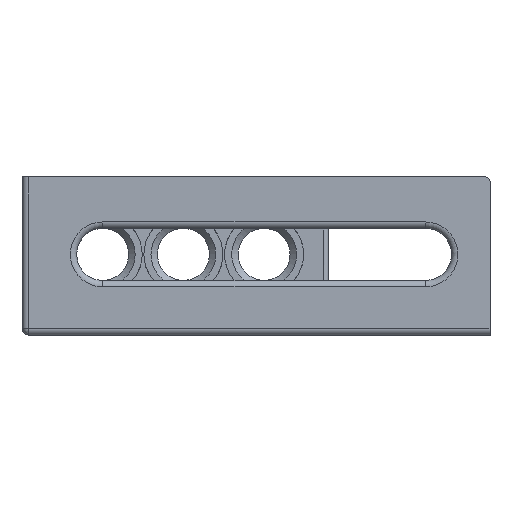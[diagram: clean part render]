
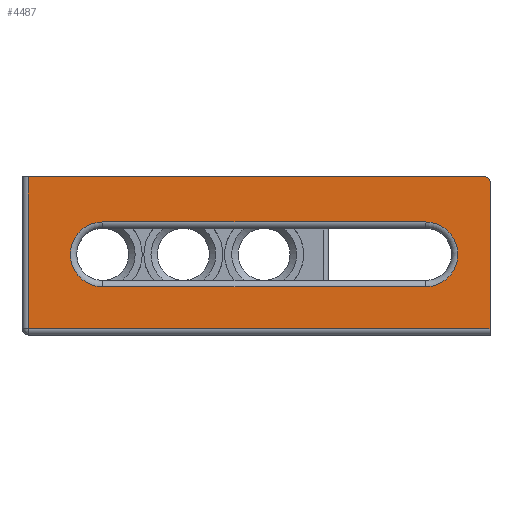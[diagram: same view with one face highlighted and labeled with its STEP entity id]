
A CAD part, front view. The second image highlights one B-rep face of the part: STEP entity #4487.
In plain terms, the highlighted planar face has unit normal (0, -1, 0).
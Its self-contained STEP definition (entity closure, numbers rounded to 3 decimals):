
#331 = EDGE_CURVE ( 'NONE', #6156, #3011, #4967, .T. ) ;
#390 = VERTEX_POINT ( 'NONE', #6332 ) ;
#470 = ORIENTED_EDGE ( 'NONE', *, *, #1678, .F. ) ;
#544 = CARTESIAN_POINT ( 'NONE',  ( 25., 0., 35.05 ) ) ;
#557 = CARTESIAN_POINT ( 'NONE',  ( 125., 0., 14.95 ) ) ;
#570 = CARTESIAN_POINT ( 'NONE',  ( 125., 0., 25. ) ) ;
#1127 = LINE ( 'NONE', #9325, #3015 ) ;
#1223 = CARTESIAN_POINT ( 'NONE',  ( 143.5, 0., 47.5 ) ) ;
#1355 = DIRECTION ( 'NONE',  ( -1., 0., 0. ) ) ;
#1510 = DIRECTION ( 'NONE',  ( 0., 0., 1. ) ) ;
#1656 = DIRECTION ( 'NONE',  ( 0., -1., 0. ) ) ;
#1678 = EDGE_CURVE ( 'NONE', #6806, #11714, #2602, .T. ) ;
#2176 = DIRECTION ( 'NONE',  ( 0., 0., 1. ) ) ;
#2324 = FACE_BOUND ( 'NONE', #9959, .T. ) ;
#2399 = EDGE_CURVE ( 'NONE', #8930, #8208, #1127, .T. ) ;
#2489 = VECTOR ( 'NONE', #6166, 1000. ) ;
#2520 = LINE ( 'NONE', #3754, #9707 ) ;
#2602 = CIRCLE ( 'NONE', #5236, 1.5 ) ;
#2797 = CARTESIAN_POINT ( 'NONE',  ( 2., 0., 2. ) ) ;
#3011 = VERTEX_POINT ( 'NONE', #7810 ) ;
#3015 = VECTOR ( 'NONE', #5584, 1000. ) ;
#3148 = LINE ( 'NONE', #544, #10347 ) ;
#3754 = CARTESIAN_POINT ( 'NONE',  ( 0., 0., 49. ) ) ;
#4277 = CIRCLE ( 'NONE', #9950, 10.05 ) ;
#4487 = ADVANCED_FACE ( 'NONE', ( #2324, #5087 ), #7568, .T. ) ;
#4548 = VECTOR ( 'NONE', #10198, 1000. ) ;
#4942 = ORIENTED_EDGE ( 'NONE', *, *, #2399, .F. ) ;
#4967 = LINE ( 'NONE', #557, #2489 ) ;
#5087 = FACE_OUTER_BOUND ( 'NONE', #11963, .T. ) ;
#5236 = AXIS2_PLACEMENT_3D ( 'NONE', #1223, #7787, #2176 ) ;
#5241 = CARTESIAN_POINT ( 'NONE',  ( 25., 0., 35.05 ) ) ;
#5415 = EDGE_CURVE ( 'NONE', #3011, #390, #10366, .T. ) ;
#5584 = DIRECTION ( 'NONE',  ( 0., 0., 1. ) ) ;
#5694 = DIRECTION ( 'NONE',  ( 0., 0., 1. ) ) ;
#6023 = CARTESIAN_POINT ( 'NONE',  ( 0., 0., 2. ) ) ;
#6076 = ORIENTED_EDGE ( 'NONE', *, *, #5415, .F. ) ;
#6156 = VERTEX_POINT ( 'NONE', #8344 ) ;
#6166 = DIRECTION ( 'NONE',  ( 1., 0., 0. ) ) ;
#6332 = CARTESIAN_POINT ( 'NONE',  ( 125., 0., 35.05 ) ) ;
#6516 = ORIENTED_EDGE ( 'NONE', *, *, #9458, .F. ) ;
#6544 = VERTEX_POINT ( 'NONE', #5241 ) ;
#6605 = DIRECTION ( 'NONE',  ( 1., 0., 0. ) ) ;
#6690 = ORIENTED_EDGE ( 'NONE', *, *, #8389, .F. ) ;
#6764 = CARTESIAN_POINT ( 'NONE',  ( 2., 0., 49. ) ) ;
#6806 = VERTEX_POINT ( 'NONE', #7601 ) ;
#7038 = LINE ( 'NONE', #6023, #9226 ) ;
#7097 = DIRECTION ( 'NONE',  ( -1., 0., 0. ) ) ;
#7126 = DIRECTION ( 'NONE',  ( 0., -1., 0. ) ) ;
#7278 = CARTESIAN_POINT ( 'NONE',  ( 25., 0., 25. ) ) ;
#7418 = EDGE_CURVE ( 'NONE', #6544, #6156, #4277, .T. ) ;
#7568 = PLANE ( 'NONE',  #11913 ) ;
#7601 = CARTESIAN_POINT ( 'NONE',  ( 143.5, 0., 49. ) ) ;
#7620 = ORIENTED_EDGE ( 'NONE', *, *, #7418, .F. ) ;
#7787 = DIRECTION ( 'NONE',  ( 0., 1., 0. ) ) ;
#7810 = CARTESIAN_POINT ( 'NONE',  ( 125., 0., 14.95 ) ) ;
#7833 = VERTEX_POINT ( 'NONE', #9836 ) ;
#7855 = ORIENTED_EDGE ( 'NONE', *, *, #8117, .F. ) ;
#8117 = EDGE_CURVE ( 'NONE', #8208, #6806, #2520, .T. ) ;
#8208 = VERTEX_POINT ( 'NONE', #6764 ) ;
#8212 = DIRECTION ( 'NONE',  ( 0., 0., 1. ) ) ;
#8344 = CARTESIAN_POINT ( 'NONE',  ( 25., 0., 14.95 ) ) ;
#8389 = EDGE_CURVE ( 'NONE', #11714, #7833, #12038, .T. ) ;
#8491 = CARTESIAN_POINT ( 'NONE',  ( 0., 0., 49. ) ) ;
#8930 = VERTEX_POINT ( 'NONE', #2797 ) ;
#9226 = VECTOR ( 'NONE', #1355, 1000. ) ;
#9325 = CARTESIAN_POINT ( 'NONE',  ( 2., 0., 49. ) ) ;
#9458 = EDGE_CURVE ( 'NONE', #7833, #8930, #7038, .T. ) ;
#9707 = VECTOR ( 'NONE', #6605, 1000. ) ;
#9836 = CARTESIAN_POINT ( 'NONE',  ( 145., 0., 2. ) ) ;
#9950 = AXIS2_PLACEMENT_3D ( 'NONE', #7278, #1656, #8212 ) ;
#9959 = EDGE_LOOP ( 'NONE', ( #11462, #6076, #9975, #7620 ) ) ;
#9975 = ORIENTED_EDGE ( 'NONE', *, *, #331, .F. ) ;
#10030 = CARTESIAN_POINT ( 'NONE',  ( 145., 0., 49. ) ) ;
#10198 = DIRECTION ( 'NONE',  ( 0., 0., -1. ) ) ;
#10347 = VECTOR ( 'NONE', #7097, 1000. ) ;
#10366 = CIRCLE ( 'NONE', #10989, 10.05 ) ;
#10537 = EDGE_CURVE ( 'NONE', #390, #6544, #3148, .T. ) ;
#10989 = AXIS2_PLACEMENT_3D ( 'NONE', #570, #7126, #1510 ) ;
#11322 = DIRECTION ( 'NONE',  ( 0., -1., 0. ) ) ;
#11462 = ORIENTED_EDGE ( 'NONE', *, *, #10537, .F. ) ;
#11714 = VERTEX_POINT ( 'NONE', #11984 ) ;
#11913 = AXIS2_PLACEMENT_3D ( 'NONE', #8491, #11322, #5694 ) ;
#11963 = EDGE_LOOP ( 'NONE', ( #6690, #470, #7855, #4942, #6516 ) ) ;
#11984 = CARTESIAN_POINT ( 'NONE',  ( 145., 0., 47.5 ) ) ;
#12038 = LINE ( 'NONE', #10030, #4548 ) ;
